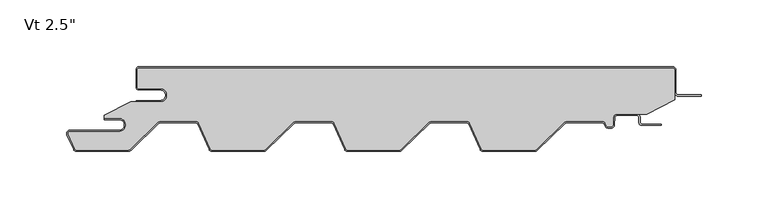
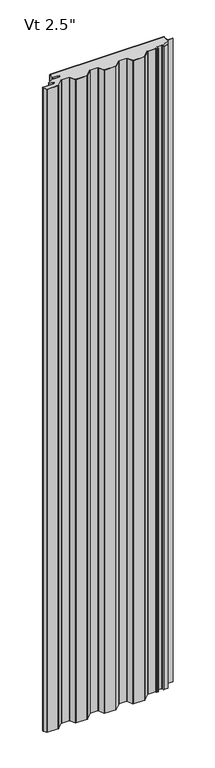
"""IFC4 building model written with IfcOpenShell, lengths in millimetres: plate geometry."""

import ifcopenshell
import ifcopenshell.guid

model = None  # the IFC model being written
_history = None  # IfcOwnerHistory: only IFC2X3 demands one
_inside = {}  # id of a spatial element -> (the spatial element, [elements in it])
_under = {}  # id of a project, library or spatial element -> (it, [spatial elements below it])
_declared = {}  # id of a project -> (the project, [libraries it declares])
_typed = {}  # id of a type object -> (the type object, [elements of that type])
_made_of = {}  # id of a material, layer set ... -> (it, [elements and type objects made of it])


def new_model(schema):
    """Start an empty IFC model of exactly this schema.

    Asked for "IFC4X3", IfcOpenShell would pick the latest addendum, in which some entities
    have other attributes; the version numbers below select the first issue.
    IFC2X3 requires an IfcOwnerHistory on every rooted entity: one is made here for all.
    """
    global model, _history
    if schema == "IFC4X3":
        model = ifcopenshell.file(schema_version=(4, 3, 0, 0))
    else:
        model = ifcopenshell.file(schema=schema)
    _inside.clear()
    _under.clear()
    _declared.clear()
    _typed.clear()
    _made_of.clear()
    _history = None
    if model.schema == "IFC2X3":
        org = make("IfcOrganization", Name="unknown")
        user = make(
            "IfcPersonAndOrganization",
            ThePerson=make("IfcPerson", FamilyName="unknown"),
            TheOrganization=org,
        )
        app = make(
            "IfcApplication",
            ApplicationDeveloper=org,
            Version="unknown",
            ApplicationFullName="unknown",
            ApplicationIdentifier="unknown",
        )
        _history = make(
            "IfcOwnerHistory",
            OwningUser=user,
            OwningApplication=app,
            ChangeAction="ADDED",
            CreationDate=0,
        )
    return model


def make(cls, **values):
    """One entity of the class cls with the attributes given. An attribute that is None is left unset."""
    return model.create_entity(
        cls, **{name: value for name, value in values.items() if value is not None}
    )


def rooted(cls, **values):
    """An entity with a GlobalId (a new one), such as an element, a storey or a relation."""
    return make(cls, GlobalId=ifcopenshell.guid.new(), OwnerHistory=_history, **values)


def si_unit(unit_type, name, prefix=None):
    """IfcSIUnit, for example si_unit("LENGTHUNIT", "METRE", prefix="MILLI")."""
    return make("IfcSIUnit", UnitType=unit_type, Prefix=prefix, Name=name)


def assignment(units):
    """IfcUnitAssignment: the units of a project."""
    return None if units is None else make("IfcUnitAssignment", Units=units)


def point(xyz):
    """IfcCartesianPoint."""
    return None if xyz is None else make("IfcCartesianPoint", Coordinates=xyz)


def direction(xyz):
    """IfcDirection."""
    return None if xyz is None else make("IfcDirection", DirectionRatios=xyz)


def frame(location, z_axis=None, x_axis=None):
    """IfcAxis2Placement3D, a coordinate frame: its origin and axes. An axis left out is left unset."""
    return make(
        "IfcAxis2Placement3D",
        Location=point(location),
        Axis=direction(z_axis),
        RefDirection=direction(x_axis),
    )


def frame_2d(location, x_axis=None):
    """IfcAxis2Placement2D, a coordinate frame in the plane: its origin and x axis."""
    return make(
        "IfcAxis2Placement2D", Location=point(location), RefDirection=direction(x_axis)
    )


def origin():
    """The frame at (0, 0, 0) with its axes left unset."""
    return frame((0.0, 0.0, 0.0))


def origin_with_axes():
    """The frame at (0, 0, 0) with the z axis (0, 0, 1) and the x axis (1, 0, 0) written out."""
    return frame((0.0, 0.0, 0.0), z_axis=(0.0, 0.0, 1.0), x_axis=(1.0, 0.0, 0.0))


def place(relative_to, where):
    """IfcLocalPlacement: puts the frame where relative to a parent placement (None: the world)."""
    return make(
        "IfcLocalPlacement", PlacementRelTo=relative_to, RelativePlacement=where
    )


def context(
    kind, dimensions, precision=None, world=None, true_north=None, identifier=None
):
    """IfcGeometricRepresentationContext, for example the 3D "Model" context."""
    return make(
        "IfcGeometricRepresentationContext",
        ContextIdentifier=identifier,
        ContextType=kind,
        CoordinateSpaceDimension=dimensions,
        Precision=precision,
        WorldCoordinateSystem=world,
        TrueNorth=true_north,
    )


def project(units=None, contexts=None):
    """IfcProject with its units and contexts."""
    return rooted(
        "IfcProject",
        Name="project",
        RepresentationContexts=contexts,
        UnitsInContext=assignment(units),
    )


def spatial(cls, under=None, at=None, **own):
    """A site, building, storey or space (cls), placed at a placement, below another one or the project."""
    s = rooted(cls, ObjectPlacement=at, **own)
    if under is not None:
        _under.setdefault(under.id(), (under, []))[1].append(s)
    return s


def polyline(points):
    """IfcPolyline through the points."""
    return make("IfcPolyline", Points=[point(p) for p in points])


def circle_curve(where, radius):
    """IfcCircle in the frame where."""
    return make("IfcCircle", Position=where, Radius=radius)


def trimmed(basis, trim1, trim2, sense, master):
    """IfcTrimmedCurve: the piece of a basis curve between two trims."""
    return make(
        "IfcTrimmedCurve",
        BasisCurve=basis,
        Trim1=trim1,
        Trim2=trim2,
        SenseAgreement=sense,
        MasterRepresentation=master,
    )


def segment(curve, same_sense, transition):
    """IfcCompositeCurveSegment."""
    return make(
        "IfcCompositeCurveSegment",
        Transition=transition,
        SameSense=same_sense,
        ParentCurve=curve,
    )


def composite_curve(segments, self_intersect=None):
    """IfcCompositeCurve: segments joined end to end."""
    return make("IfcCompositeCurve", Segments=segments, SelfIntersect=self_intersect)


def outline(outer, holes=None, kind="AREA"):
    """IfcArbitraryClosedProfileDef: a profile drawn as a closed curve; with holes, ...WithVoids."""
    if holes is None:
        return make("IfcArbitraryClosedProfileDef", ProfileType=kind, OuterCurve=outer)
    return make(
        "IfcArbitraryProfileDefWithVoids",
        ProfileType=kind,
        OuterCurve=outer,
        InnerCurves=holes,
    )


def extrude(swept, where, along, depth):
    """IfcExtrudedAreaSolid: the profile swept, set in the frame where, extruded along a direction by depth."""
    return make(
        "IfcExtrudedAreaSolid",
        SweptArea=swept,
        Position=where,
        ExtrudedDirection=direction(along),
        Depth=depth,
    )


def shape(context_of_items, identifier, shape_type, items):
    """IfcShapeRepresentation: the items that make up one representation, for example the "Body"."""
    return make(
        "IfcShapeRepresentation",
        ContextOfItems=context_of_items,
        RepresentationIdentifier=identifier,
        RepresentationType=shape_type,
        Items=items,
    )


def source(mapping_origin, context_of_items, identifier, shape_type, items):
    """IfcRepresentationMap: a shape defined once, which mapped items show again and again."""
    return make(
        "IfcRepresentationMap",
        MappingOrigin=mapping_origin,
        MappedRepresentation=shape(context_of_items, identifier, shape_type, items),
    )


def transform(
    local_origin,
    x_axis=None,
    y_axis=None,
    z_axis=None,
    scale=None,
    scale2=None,
    scale3=None,
    uniform=True,
):
    """IfcCartesianTransformationOperator3D, or its non-uniform kind. x_axis, y_axis, z_axis: its Axis1, 2, 3."""
    if uniform:
        return make(
            "IfcCartesianTransformationOperator3D",
            Axis1=direction(x_axis),
            Axis2=direction(y_axis),
            LocalOrigin=point(local_origin),
            Scale=scale,
            Axis3=direction(z_axis),
        )
    return make(
        "IfcCartesianTransformationOperator3DnonUniform",
        Axis1=direction(x_axis),
        Axis2=direction(y_axis),
        LocalOrigin=point(local_origin),
        Scale=scale,
        Axis3=direction(z_axis),
        Scale2=scale2,
        Scale3=scale3,
    )


def mapped(mapping_source, mapping_target):
    """IfcMappedItem: shows the shape of a source again, moved by a transform."""
    return make(
        "IfcMappedItem", MappingSource=mapping_source, MappingTarget=mapping_target
    )


def made_of(thing, what):
    """Note that an element or type object is made of a material, layer set ...; save() writes the relation."""
    if what is not None:
        _made_of.setdefault(what.id(), (what, []))[1].append(thing)
    return thing


def element(
    cls,
    number,
    at=None,
    inside=None,
    cuts=None,
    type_object=None,
    material=None,
    context=None,
    identifier="Body",
    shape_type=None,
    held_by="IfcProductDefinitionShape",
    body=None,
    shapes=None,
    **own,
):
    """One element of the class cls, such as IfcWall. Its Tag is "e" and its number.

    at: its placement. inside: the storey or other place that contains it. cuts: it is an
    opening in that element (IfcRelVoidsElement). A single representation is given by context,
    identifier, shape_type and body (its items); several are given by shapes. held_by: the class
    of the entity that holds the representations. save() writes the other relations.
    """
    e = rooted(cls, Tag="e%d" % number, ObjectPlacement=at, **own)
    if body is not None:
        shapes = [shape(context, identifier, shape_type, body)]
    if shapes is not None:
        e.Representation = make(held_by, Representations=shapes)
    if inside is not None:
        _inside.setdefault(inside.id(), (inside, []))[1].append(e)
    if cuts is not None:
        rooted(
            "IfcRelVoidsElement", RelatingBuildingElement=cuts, RelatedOpeningElement=e
        )
    if type_object is not None:
        _typed.setdefault(type_object.id(), (type_object, []))[1].append(e)
    return made_of(e, material)


def aggregate(whole, parts):
    """IfcRelAggregates: a whole, such as a stair, and the parts it consists of."""
    return rooted("IfcRelAggregates", RelatingObject=whole, RelatedObjects=parts)


def save(model, path):
    """Write the relations noted so far, then the file.

    IfcRelAggregates (storeys below a building ...), IfcRelContainedInSpatialStructure (elements
    in a storey), IfcRelDefinesByType, IfcRelAssociatesMaterial and IfcRelDeclares: one each for
    every whole, place, type object, material and project.
    """
    for whole, parts in _under.values():
        aggregate(whole, parts)
    for where, things in _inside.values():
        rooted(
            "IfcRelContainedInSpatialStructure",
            RelatedElements=things,
            RelatingStructure=where,
        )
    for kind, things in _typed.values():
        rooted("IfcRelDefinesByType", RelatedObjects=things, RelatingType=kind)
    for what, things in _made_of.values():
        rooted("IfcRelAssociatesMaterial", RelatedObjects=things, RelatingMaterial=what)
    for by, libraries in _declared.values():
        rooted("IfcRelDeclares", RelatingContext=by, RelatedDefinitions=libraries)
    model.write(path)


def plate_beac2ef0(model_context):
    return source(origin(), model_context, "Body", "SweptSolid", [
        extrude(outline(composite_curve([segment(trimmed(circle_curve(frame_2d((-184.14375, -21.4324412)), 4.96875), [point((-184.14375, -26.4011912))], [point((-184.14375, -16.4636912))], True, "CARTESIAN"), True, "CONTINUOUS"), segment(polyline([(-184.14375, -16.4636912), (-200.01875, -16.4636912)]), True, "CONTINUOUS"), segment(trimmed(circle_curve(frame_2d((-200.01875, -15.0824412)), 1.38125), [point((-200.01875, -16.4636912))], [point((-201.4, -15.0824412))], False, "CARTESIAN"), True, "CONTINUOUS"), segment(polyline([(-201.4, -15.0824412), (-201.4, -2.3824412)]), True, "CONTINUOUS"), segment(trimmed(circle_curve(frame_2d((-200.01875, -2.3824412)), 1.38125), [point((-201.4, -2.3824412))], [point((-200.01875, -1.0011912))], False, "CARTESIAN"), True, "CONTINUOUS"), segment(polyline([(-200.01875, -1.0011912), (200.03125, -1.0011912)]), True, "CONTINUOUS"), segment(trimmed(circle_curve(frame_2d((200.03125, -2.3824412)), 1.38125), [point((200.03125, -1.0011912))], [point((201.4125, -2.3824412))], False, "CARTESIAN"), True, "CONTINUOUS"), segment(polyline([(201.4125, -2.3824412), (201.4125, -24.8719682), (180.5955434, -35.5136912), (158.1683457, -35.5136912)]), True, "CONTINUOUS"), segment(trimmed(circle_curve(frame_2d((158.1683457, -38.1011912)), 2.5875), [point((158.1683457, -35.5136912))], [point((155.5843918, -37.9657719))], True, "CARTESIAN"), True, "CONTINUOUS"), segment(polyline([(155.5843918, -37.9657719), (155.2823155, -43.7297302)]), True, "CONTINUOUS"), segment(trimmed(circle_curve(frame_2d((153.9029585, -43.6574412)), 1.38125), [point((155.2823155, -43.7297302))], [point((153.9029585, -45.0386912))], False, "CARTESIAN"), True, "CONTINUOUS"), segment(polyline([(153.9029585, -45.0386912), (151.5754519, -45.0386912)]), True, "CONTINUOUS"), segment(trimmed(circle_curve(frame_2d((151.5754519, -43.6574412)), 1.38125), [point((151.5754519, -45.0386912))], [point((150.3124516, -44.2166208))], False, "CARTESIAN"), True, "CONTINUOUS"), segment(polyline([(150.3124516, -44.2166208), (149.5640306, -42.5261871)]), True, "CONTINUOUS"), segment(trimmed(circle_curve(frame_2d((147.1980481, -43.5737)), 2.5875), [point((149.5640306, -42.5261871))], [point((147.1980481, -40.9862))], True, "CARTESIAN"), True, "CONTINUOUS"), segment(polyline([(147.1980481, -40.9862), (120.6742003, -40.9862)]), True, "CONTINUOUS"), segment(trimmed(circle_curve(frame_2d((120.6742003, -43.5737)), 2.5875), [point((120.6742003, -40.9862))], [point((118.8745496, -41.7145567))], True, "CARTESIAN"), True, "CONTINUOUS"), segment(polyline([(118.8745496, -41.7145567), (97.8036462, -62.1111912)]), True, "CONTINUOUS"), segment(trimmed(circle_curve(frame_2d((96.8429631, -61.11875)), 1.38125), [point((97.8036462, -62.1111912))], [point((96.8429631, -62.5))], False, "CARTESIAN"), True, "CONTINUOUS"), segment(polyline([(96.8429631, -62.5), (57.7062557, -62.5)]), True, "CONTINUOUS"), segment(trimmed(circle_curve(frame_2d((57.7062557, -61.11875)), 1.38125), [point((57.7062557, -62.5))], [point((56.4432554, -61.6779296))], False, "CARTESIAN"), True, "CONTINUOUS"), segment(polyline([(56.4432554, -61.6779296), (47.9640306, -42.5261871)]), True, "CONTINUOUS"), segment(trimmed(circle_curve(frame_2d((45.5980481, -43.5737)), 2.5875), [point((47.9640306, -42.5261871))], [point((45.5980481, -40.9862))], True, "CARTESIAN"), True, "CONTINUOUS"), segment(polyline([(45.5980481, -40.9862), (19.0742003, -40.9862)]), True, "CONTINUOUS"), segment(trimmed(circle_curve(frame_2d((19.0742003, -43.5737)), 2.5875), [point((19.0742003, -40.9862))], [point((17.2745496, -41.7145567))], True, "CARTESIAN"), True, "CONTINUOUS"), segment(polyline([(17.2745496, -41.7145567), (-3.7963538, -62.1111912)]), True, "CONTINUOUS"), segment(trimmed(circle_curve(frame_2d((-4.7570369, -61.11875)), 1.38125), [point((-3.7963538, -62.1111912))], [point((-4.7570369, -62.5))], False, "CARTESIAN"), True, "CONTINUOUS"), segment(polyline([(-4.7570369, -62.5), (-43.8937443, -62.5)]), True, "CONTINUOUS"), segment(trimmed(circle_curve(frame_2d((-43.8937443, -61.11875)), 1.38125), [point((-43.8937443, -62.5))], [point((-45.1567446, -61.6779296))], False, "CARTESIAN"), True, "CONTINUOUS"), segment(polyline([(-45.1567446, -61.6779296), (-53.6359694, -42.5261871)]), True, "CONTINUOUS"), segment(trimmed(circle_curve(frame_2d((-56.0019519, -43.5737)), 2.5875), [point((-53.6359694, -42.5261871))], [point((-56.0019519, -40.9862))], True, "CARTESIAN"), True, "CONTINUOUS"), segment(polyline([(-56.0019519, -40.9862), (-82.5257997, -40.9862)]), True, "CONTINUOUS"), segment(trimmed(circle_curve(frame_2d((-82.5257997, -43.5737)), 2.5875), [point((-82.5257997, -40.9862))], [point((-84.3254504, -41.7145567))], True, "CARTESIAN"), True, "CONTINUOUS"), segment(polyline([(-84.3254504, -41.7145567), (-105.3963538, -62.1111912)]), True, "CONTINUOUS"), segment(trimmed(circle_curve(frame_2d((-106.3570369, -61.11875)), 1.38125), [point((-105.3963538, -62.1111912))], [point((-106.3570369, -62.5))], False, "CARTESIAN"), True, "CONTINUOUS"), segment(polyline([(-106.3570369, -62.5), (-145.4937443, -62.5)]), True, "CONTINUOUS"), segment(trimmed(circle_curve(frame_2d((-145.4937443, -61.11875)), 1.38125), [point((-145.4937443, -62.5))], [point((-146.7567446, -61.6779296))], False, "CARTESIAN"), True, "CONTINUOUS"), segment(polyline([(-146.7567446, -61.6779296), (-155.2359694, -42.5261871)]), True, "CONTINUOUS"), segment(trimmed(circle_curve(frame_2d((-157.6019519, -43.5737)), 2.5875), [point((-155.2359694, -42.5261871))], [point((-157.6019519, -40.9862))], True, "CARTESIAN"), True, "CONTINUOUS"), segment(polyline([(-157.6019519, -40.9862), (-184.1257997, -40.9862)]), True, "CONTINUOUS"), segment(trimmed(circle_curve(frame_2d((-184.1257997, -43.5737)), 2.5875), [point((-184.1257997, -40.9862))], [point((-185.9254504, -41.7145567))], True, "CARTESIAN"), True, "CONTINUOUS"), segment(polyline([(-185.9254504, -41.7145567), (-206.7876931, -61.9092077)]), True, "CONTINUOUS"), segment(trimmed(circle_curve(frame_2d((-208.2474446, -60.4012)), 2.0988), [point((-206.7876931, -61.9092077))], [point((-208.2474446, -62.5))], False, "CARTESIAN"), True, "CONTINUOUS"), segment(polyline([(-208.2474446, -62.5), (-247.0937443, -62.5)]), True, "CONTINUOUS"), segment(trimmed(circle_curve(frame_2d((-247.0937443, -61.11875)), 1.38125), [point((-247.0937443, -62.5))], [point((-248.3567446, -61.6779296))], False, "CARTESIAN"), True, "CONTINUOUS"), segment(polyline([(-248.3567446, -61.6779296), (-253.2761552, -50.5666208)]), True, "CONTINUOUS"), segment(trimmed(circle_curve(frame_2d((-252.0131549, -50.0074412)), 1.38125), [point((-253.2761552, -50.5666208))], [point((-252.0131549, -48.6261912))], False, "CARTESIAN"), True, "CONTINUOUS"), segment(polyline([(-252.0131549, -48.6261912), (-215.1, -48.6261912)]), True, "CONTINUOUS"), segment(trimmed(circle_curve(frame_2d((-215.1, -43.6574412)), 4.96875), [point((-215.1, -48.6261912))], [point((-215.1, -38.6886912))], True, "CARTESIAN"), True, "CONTINUOUS"), segment(polyline([(-215.1, -38.6886912), (-226.2125, -38.6886912), (-226.2125, -36.533822), (-206.3914112, -26.4011912), (-184.14375, -26.4011912)]), True, "CONTINUOUS")], self_intersect=False)), origin_with_axes(), (0.0, 0.0, 1.0), 2400.0),
        extrude(outline(composite_curve([segment(polyline([(-202.4, -25.4), (-184.14375, -25.4)]), True, "CONTINUOUS"), segment(trimmed(circle_curve(frame_2d((-184.14375, -21.43125)), 3.96875), [point((-184.14375, -25.4))], [point((-184.14375, -17.4625))], True, "CARTESIAN"), True, "CONTINUOUS"), segment(polyline([(-184.14375, -17.4625), (-200.01875, -17.4625)]), True, "CONTINUOUS"), segment(trimmed(circle_curve(frame_2d((-200.01875, -15.08125)), 2.38125), [point((-200.01875, -17.4625))], [point((-202.4, -15.08125))], False, "CARTESIAN"), True, "CONTINUOUS"), segment(polyline([(-202.4, -15.08125), (-202.4, -2.38125)]), True, "CONTINUOUS"), segment(trimmed(circle_curve(frame_2d((-200.01875, -2.38125)), 2.38125), [point((-202.4, -2.38125))], [point((-200.01875, 0.0))], False, "CARTESIAN"), True, "CONTINUOUS"), segment(polyline([(-200.01875, 0.0), (200.03125, 0.0)]), True, "CONTINUOUS"), segment(trimmed(circle_curve(frame_2d((200.03125, -2.38125)), 2.38125), [point((200.03125, 0.0))], [point((202.4125, -2.38125))], False, "CARTESIAN"), True, "CONTINUOUS"), segment(polyline([(202.4125, -2.38125), (202.4125, -19.446875)]), True, "CONTINUOUS"), segment(trimmed(circle_curve(frame_2d((204.0, -19.446875)), 1.5875), [point((202.4125, -19.446875))], [point((204.0, -21.034375))], True, "CARTESIAN"), True, "CONTINUOUS"), segment(polyline([(204.0, -21.034375), (221.4625, -21.034375), (221.4625, -22.034375), (204.0, -22.034375)]), True, "CONTINUOUS"), segment(trimmed(circle_curve(frame_2d((204.0, -19.446875)), 2.5875), [point((204.0, -22.034375))], [point((201.4125, -19.446875))], False, "CARTESIAN"), True, "CONTINUOUS"), segment(polyline([(201.4125, -19.446875), (201.4125, -2.38125)]), True, "CONTINUOUS"), segment(trimmed(circle_curve(frame_2d((200.03125, -2.38125)), 1.38125), [point((201.4125, -2.38125))], [point((200.03125, -1.0))], True, "CARTESIAN"), True, "CONTINUOUS"), segment(polyline([(200.03125, -1.0), (-200.01875, -1.0)]), True, "CONTINUOUS"), segment(trimmed(circle_curve(frame_2d((-200.01875, -2.38125)), 1.38125), [point((-200.01875, -1.0))], [point((-201.4, -2.38125))], True, "CARTESIAN"), True, "CONTINUOUS"), segment(polyline([(-201.4, -2.38125), (-201.4, -15.08125)]), True, "CONTINUOUS"), segment(trimmed(circle_curve(frame_2d((-200.01875, -15.08125)), 1.38125), [point((-201.4, -15.08125))], [point((-200.01875, -16.4625))], True, "CARTESIAN"), True, "CONTINUOUS"), segment(polyline([(-200.01875, -16.4625), (-184.14375, -16.4625)]), True, "CONTINUOUS"), segment(trimmed(circle_curve(frame_2d((-184.14375, -21.43125)), 4.96875), [point((-184.14375, -16.4625))], [point((-184.14375, -26.4))], False, "CARTESIAN"), True, "CONTINUOUS"), segment(polyline([(-184.14375, -26.4), (-202.4, -26.4), (-202.4, -25.4)]), True, "CONTINUOUS")], self_intersect=False)), origin_with_axes(), (0.0, 0.0, 1.0), 2400.0),
        extrude(outline(composite_curve([segment(trimmed(circle_curve(frame_2d((-215.1, -43.6574412)), 3.96875), [point((-215.1, -47.6261912))], [point((-215.1, -39.6886912))], True, "CARTESIAN"), True, "CONTINUOUS"), segment(polyline([(-215.1, -39.6886912), (-226.2125, -39.6886912), (-226.2125, -38.6886912), (-215.1, -38.6886912)]), True, "CONTINUOUS"), segment(trimmed(circle_curve(frame_2d((-215.1, -43.6574412)), 4.96875), [point((-215.1, -38.6886912))], [point((-215.1, -48.6261912))], False, "CARTESIAN"), True, "CONTINUOUS"), segment(polyline([(-215.1, -48.6261912), (-252.0131549, -48.6261912)]), True, "CONTINUOUS"), segment(trimmed(circle_curve(frame_2d((-252.0131549, -50.0074412)), 1.38125), [point((-252.0131549, -48.6261912))], [point((-253.2761552, -50.5666208))], True, "CARTESIAN"), True, "CONTINUOUS"), segment(polyline([(-253.2761552, -50.5666208), (-248.3567446, -61.6779296)]), True, "CONTINUOUS"), segment(trimmed(circle_curve(frame_2d((-247.0937443, -61.11875)), 1.38125), [point((-248.3567446, -61.6779296))], [point((-247.0937443, -62.5))], True, "CARTESIAN"), True, "CONTINUOUS"), segment(polyline([(-247.0937443, -62.5), (-208.2474446, -62.5)]), True, "CONTINUOUS"), segment(trimmed(circle_curve(frame_2d((-208.2474446, -60.4012)), 2.0988), [point((-208.2474446, -62.5))], [point((-206.7876931, -61.9092077))], True, "CARTESIAN"), True, "CONTINUOUS"), segment(polyline([(-206.7876931, -61.9092077), (-185.9254504, -41.7145567)]), True, "CONTINUOUS"), segment(trimmed(circle_curve(frame_2d((-184.1257997, -43.5737)), 2.5875), [point((-185.9254504, -41.7145567))], [point((-184.1257997, -40.9862))], False, "CARTESIAN"), True, "CONTINUOUS"), segment(polyline([(-184.1257997, -40.9862), (-157.6019519, -40.9862)]), True, "CONTINUOUS"), segment(trimmed(circle_curve(frame_2d((-157.6019519, -43.5737)), 2.5875), [point((-157.6019519, -40.9862))], [point((-155.2359694, -42.5261871))], False, "CARTESIAN"), True, "CONTINUOUS"), segment(polyline([(-155.2359694, -42.5261871), (-146.7567446, -61.6779296)]), True, "CONTINUOUS"), segment(trimmed(circle_curve(frame_2d((-145.4937443, -61.11875)), 1.38125), [point((-146.7567446, -61.6779296))], [point((-145.4937443, -62.5))], True, "CARTESIAN"), True, "CONTINUOUS"), segment(polyline([(-145.4937443, -62.5), (-106.3570369, -62.5)]), True, "CONTINUOUS"), segment(trimmed(circle_curve(frame_2d((-106.3570369, -61.11875)), 1.38125), [point((-106.3570369, -62.5))], [point((-105.3963538, -62.1111912))], True, "CARTESIAN"), True, "CONTINUOUS"), segment(polyline([(-105.3963538, -62.1111912), (-84.3254504, -41.7145567)]), True, "CONTINUOUS"), segment(trimmed(circle_curve(frame_2d((-82.5257997, -43.5737)), 2.5875), [point((-84.3254504, -41.7145567))], [point((-82.5257997, -40.9862))], False, "CARTESIAN"), True, "CONTINUOUS"), segment(polyline([(-82.5257997, -40.9862), (-56.0019519, -40.9862)]), True, "CONTINUOUS"), segment(trimmed(circle_curve(frame_2d((-56.0019519, -43.5737)), 2.5875), [point((-56.0019519, -40.9862))], [point((-53.6359694, -42.5261871))], False, "CARTESIAN"), True, "CONTINUOUS"), segment(polyline([(-53.6359694, -42.5261871), (-45.1567446, -61.6779296)]), True, "CONTINUOUS"), segment(trimmed(circle_curve(frame_2d((-43.8937443, -61.11875)), 1.38125), [point((-45.1567446, -61.6779296))], [point((-43.8937443, -62.5))], True, "CARTESIAN"), True, "CONTINUOUS"), segment(polyline([(-43.8937443, -62.5), (-4.7570369, -62.5)]), True, "CONTINUOUS"), segment(trimmed(circle_curve(frame_2d((-4.7570369, -61.11875)), 1.38125), [point((-4.7570369, -62.5))], [point((-3.7963538, -62.1111912))], True, "CARTESIAN"), True, "CONTINUOUS"), segment(polyline([(-3.7963538, -62.1111912), (17.2745496, -41.7145567)]), True, "CONTINUOUS"), segment(trimmed(circle_curve(frame_2d((19.0742003, -43.5737)), 2.5875), [point((17.2745496, -41.7145567))], [point((19.0742003, -40.9862))], False, "CARTESIAN"), True, "CONTINUOUS"), segment(polyline([(19.0742003, -40.9862), (45.5980481, -40.9862)]), True, "CONTINUOUS"), segment(trimmed(circle_curve(frame_2d((45.5980481, -43.5737)), 2.5875), [point((45.5980481, -40.9862))], [point((47.9640306, -42.5261871))], False, "CARTESIAN"), True, "CONTINUOUS"), segment(polyline([(47.9640306, -42.5261871), (56.4432554, -61.6779296)]), True, "CONTINUOUS"), segment(trimmed(circle_curve(frame_2d((57.7062557, -61.11875)), 1.38125), [point((56.4432554, -61.6779296))], [point((57.7062557, -62.5))], True, "CARTESIAN"), True, "CONTINUOUS"), segment(polyline([(57.7062557, -62.5), (96.8429631, -62.5)]), True, "CONTINUOUS"), segment(trimmed(circle_curve(frame_2d((96.8429631, -61.11875)), 1.38125), [point((96.8429631, -62.5))], [point((97.8036462, -62.1111912))], True, "CARTESIAN"), True, "CONTINUOUS"), segment(polyline([(97.8036462, -62.1111912), (118.8745496, -41.7145567)]), True, "CONTINUOUS"), segment(trimmed(circle_curve(frame_2d((120.6742003, -43.5737)), 2.5875), [point((118.8745496, -41.7145567))], [point((120.6742003, -40.9862))], False, "CARTESIAN"), True, "CONTINUOUS"), segment(polyline([(120.6742003, -40.9862), (147.1980481, -40.9862)]), True, "CONTINUOUS"), segment(trimmed(circle_curve(frame_2d((147.1980481, -43.5737)), 2.5875), [point((147.1980481, -40.9862))], [point((149.5640306, -42.5261871))], False, "CARTESIAN"), True, "CONTINUOUS"), segment(polyline([(149.5640306, -42.5261871), (150.3124516, -44.2166208)]), True, "CONTINUOUS"), segment(trimmed(circle_curve(frame_2d((151.5754519, -43.6574412)), 1.38125), [point((150.3124516, -44.2166208))], [point((151.5754519, -45.0386912))], True, "CARTESIAN"), True, "CONTINUOUS"), segment(polyline([(151.5754519, -45.0386912), (153.9029585, -45.0386912)]), True, "CONTINUOUS"), segment(trimmed(circle_curve(frame_2d((153.9029585, -43.6574412)), 1.38125), [point((153.9029585, -45.0386912))], [point((155.2823155, -43.7297302))], True, "CARTESIAN"), True, "CONTINUOUS"), segment(polyline([(155.2823155, -43.7297302), (155.5843918, -37.9657719)]), True, "CONTINUOUS"), segment(trimmed(circle_curve(frame_2d((158.1683457, -38.1011912)), 2.5875), [point((155.5843918, -37.9657719))], [point((158.1683457, -35.5136912))], False, "CARTESIAN"), True, "CONTINUOUS"), segment(polyline([(158.1683457, -35.5136912), (173.04375, -35.5136912)]), True, "CONTINUOUS"), segment(trimmed(circle_curve(frame_2d((173.04375, -38.1011912)), 2.5875), [point((173.04375, -35.5136912))], [point((175.63125, -38.1011912))], False, "CARTESIAN"), True, "CONTINUOUS"), segment(polyline([(175.63125, -38.1011912), (175.63125, -41.6730662)]), True, "CONTINUOUS"), segment(trimmed(circle_curve(frame_2d((177.0125, -41.6730662)), 1.38125), [point((175.63125, -41.6730662))], [point((177.0125, -43.0543162))], True, "CARTESIAN"), True, "CONTINUOUS"), segment(polyline([(177.0125, -43.0543162), (191.3, -43.0543162), (191.3, -44.0543162), (177.0125, -44.0543162)]), True, "CONTINUOUS"), segment(trimmed(circle_curve(frame_2d((177.0125, -41.6730662)), 2.38125), [point((177.0125, -44.0543162))], [point((174.63125, -41.6730662))], False, "CARTESIAN"), True, "CONTINUOUS"), segment(polyline([(174.63125, -41.6730662), (174.63125, -38.1011912)]), True, "CONTINUOUS"), segment(trimmed(circle_curve(frame_2d((173.04375, -38.1011912)), 1.5875), [point((174.63125, -38.1011912))], [point((173.04375, -36.5136912))], True, "CARTESIAN"), True, "CONTINUOUS"), segment(polyline([(173.04375, -36.5136912), (158.1683457, -36.5136912)]), True, "CONTINUOUS"), segment(trimmed(circle_curve(frame_2d((158.1683457, -38.1011912)), 1.5875), [point((158.1683457, -36.5136912))], [point((156.5830213, -38.0181078))], True, "CARTESIAN"), True, "CONTINUOUS"), segment(polyline([(156.5830213, -38.0181078), (156.2809451, -43.7820662)]), True, "CONTINUOUS"), segment(trimmed(circle_curve(frame_2d((153.9029585, -43.6574412)), 2.38125), [point((156.2809451, -43.7820662))], [point((153.9029585, -46.0386912))], False, "CARTESIAN"), True, "CONTINUOUS"), segment(polyline([(153.9029585, -46.0386912), (151.5754519, -46.0386912)]), True, "CONTINUOUS"), segment(trimmed(circle_curve(frame_2d((151.5754519, -43.6574412)), 2.38125), [point((151.5754519, -46.0386912))], [point((149.3980623, -44.6214567))], False, "CARTESIAN"), True, "CONTINUOUS"), segment(polyline([(149.3980623, -44.6214567), (148.6496412, -42.931023)]), True, "CONTINUOUS"), segment(trimmed(circle_curve(frame_2d((147.1980481, -43.5737)), 1.5875), [point((148.6496412, -42.931023))], [point((147.1980481, -41.9862))], True, "CARTESIAN"), True, "CONTINUOUS"), segment(polyline([(147.1980481, -41.9862), (120.6742003, -41.9862)]), True, "CONTINUOUS"), segment(trimmed(circle_curve(frame_2d((120.6742003, -43.5737)), 1.5875), [point((120.6742003, -41.9862))], [point((119.5700668, -42.4330662))], True, "CARTESIAN"), True, "CONTINUOUS"), segment(polyline([(119.5700668, -42.4330662), (98.4991634, -62.8297007)]), True, "CONTINUOUS"), segment(trimmed(circle_curve(frame_2d((96.8429631, -61.11875)), 2.38125), [point((98.4991634, -62.8297007))], [point((96.8429631, -63.5))], False, "CARTESIAN"), True, "CONTINUOUS"), segment(polyline([(96.8429631, -63.5), (57.7062557, -63.5)]), True, "CONTINUOUS"), segment(trimmed(circle_curve(frame_2d((57.7062557, -61.11875)), 2.38125), [point((57.7062557, -63.5))], [point((55.5288661, -62.0827655))], False, "CARTESIAN"), True, "CONTINUOUS"), segment(polyline([(55.5288661, -62.0827655), (47.0496412, -42.931023)]), True, "CONTINUOUS"), segment(trimmed(circle_curve(frame_2d((45.5980481, -43.5737)), 1.5875), [point((47.0496412, -42.931023))], [point((45.5980481, -41.9862))], True, "CARTESIAN"), True, "CONTINUOUS"), segment(polyline([(45.5980481, -41.9862), (19.0742003, -41.9862)]), True, "CONTINUOUS"), segment(trimmed(circle_curve(frame_2d((19.0742003, -43.5737)), 1.5875), [point((19.0742003, -41.9862))], [point((17.9700668, -42.4330662))], True, "CARTESIAN"), True, "CONTINUOUS"), segment(polyline([(17.9700668, -42.4330662), (-3.1008366, -62.8297007)]), True, "CONTINUOUS"), segment(trimmed(circle_curve(frame_2d((-4.7570369, -61.11875)), 2.38125), [point((-3.1008366, -62.8297007))], [point((-4.7570369, -63.5))], False, "CARTESIAN"), True, "CONTINUOUS"), segment(polyline([(-4.7570369, -63.5), (-43.8937443, -63.5)]), True, "CONTINUOUS"), segment(trimmed(circle_curve(frame_2d((-43.8937443, -61.11875)), 2.38125), [point((-43.8937443, -63.5))], [point((-46.0711339, -62.0827655))], False, "CARTESIAN"), True, "CONTINUOUS"), segment(polyline([(-46.0711339, -62.0827655), (-54.5503588, -42.931023)]), True, "CONTINUOUS"), segment(trimmed(circle_curve(frame_2d((-56.0019519, -43.5737)), 1.5875), [point((-54.5503588, -42.931023))], [point((-56.0019519, -41.9862))], True, "CARTESIAN"), True, "CONTINUOUS"), segment(polyline([(-56.0019519, -41.9862), (-82.5257997, -41.9862)]), True, "CONTINUOUS"), segment(trimmed(circle_curve(frame_2d((-82.5257997, -43.5737)), 1.5875), [point((-82.5257997, -41.9862))], [point((-83.6299332, -42.4330662))], True, "CARTESIAN"), True, "CONTINUOUS"), segment(polyline([(-83.6299332, -42.4330662), (-104.7008366, -62.8297007)]), True, "CONTINUOUS"), segment(trimmed(circle_curve(frame_2d((-106.3570369, -61.11875)), 2.38125), [point((-104.7008366, -62.8297007))], [point((-106.3570369, -63.5))], False, "CARTESIAN"), True, "CONTINUOUS"), segment(polyline([(-106.3570369, -63.5), (-145.4937443, -63.5)]), True, "CONTINUOUS"), segment(trimmed(circle_curve(frame_2d((-145.4937443, -61.11875)), 2.38125), [point((-145.4937443, -63.5))], [point((-147.6711339, -62.0827655))], False, "CARTESIAN"), True, "CONTINUOUS"), segment(polyline([(-147.6711339, -62.0827655), (-156.1503588, -42.931023)]), True, "CONTINUOUS"), segment(trimmed(circle_curve(frame_2d((-157.6019519, -43.5737)), 1.5875), [point((-156.1503588, -42.931023))], [point((-157.6019519, -41.9862))], True, "CARTESIAN"), True, "CONTINUOUS"), segment(polyline([(-157.6019519, -41.9862), (-184.1257997, -41.9862)]), True, "CONTINUOUS"), segment(trimmed(circle_curve(frame_2d((-184.1257997, -43.5737)), 1.5875), [point((-184.1257997, -41.9862))], [point((-185.2299332, -42.4330662))], True, "CARTESIAN"), True, "CONTINUOUS"), segment(polyline([(-185.2299332, -42.4330662), (-206.0921759, -62.6277172)]), True, "CONTINUOUS"), segment(trimmed(circle_curve(frame_2d((-208.2474446, -60.4012)), 3.0988), [point((-206.0921759, -62.6277172))], [point((-208.2474446, -63.5))], False, "CARTESIAN"), True, "CONTINUOUS"), segment(polyline([(-208.2474446, -63.5), (-247.0937443, -63.5)]), True, "CONTINUOUS"), segment(trimmed(circle_curve(frame_2d((-247.0937443, -61.11875)), 2.38125), [point((-247.0937443, -63.5))], [point((-249.2711339, -62.0827655))], False, "CARTESIAN"), True, "CONTINUOUS"), segment(polyline([(-249.2711339, -62.0827655), (-254.1905446, -50.9714567)]), True, "CONTINUOUS"), segment(trimmed(circle_curve(frame_2d((-252.0131549, -50.0074412)), 2.38125), [point((-254.1905446, -50.9714567))], [point((-252.0131549, -47.6261912))], False, "CARTESIAN"), True, "CONTINUOUS"), segment(polyline([(-252.0131549, -47.6261912), (-215.1, -47.6261912)]), True, "CONTINUOUS")], self_intersect=False)), origin_with_axes(), (0.0, 0.0, 1.0), 2400.0),
    ])


if __name__ == "__main__":
    model = new_model("IFC4")
    model_context = context("Model", 3, world=origin())
    ifc_project = project(units=[si_unit("LENGTHUNIT", "METRE", prefix="MILLI")], contexts=[model_context])
    site = spatial("IfcSite", under=ifc_project)
    building = spatial("IfcBuilding", under=site)
    placement = place(None, origin())
    plate_shape = plate_beac2ef0(model_context)
    element("IfcPlate", 1, ObjectType="KIP-16-DWR-R19-CP-Vt-S : Vt 2.5\"", at=placement, inside=building, context=model_context, shape_type="MappedRepresentation", body=[
        mapped(plate_shape, transform((0.0, 0.0, 0.0), x_axis=(1.0, 0.0, 0.0), y_axis=(0.0, 1.0, 0.0), z_axis=(0.0, 0.0, 1.0))),
    ])
    save(model, "model.ifc")
